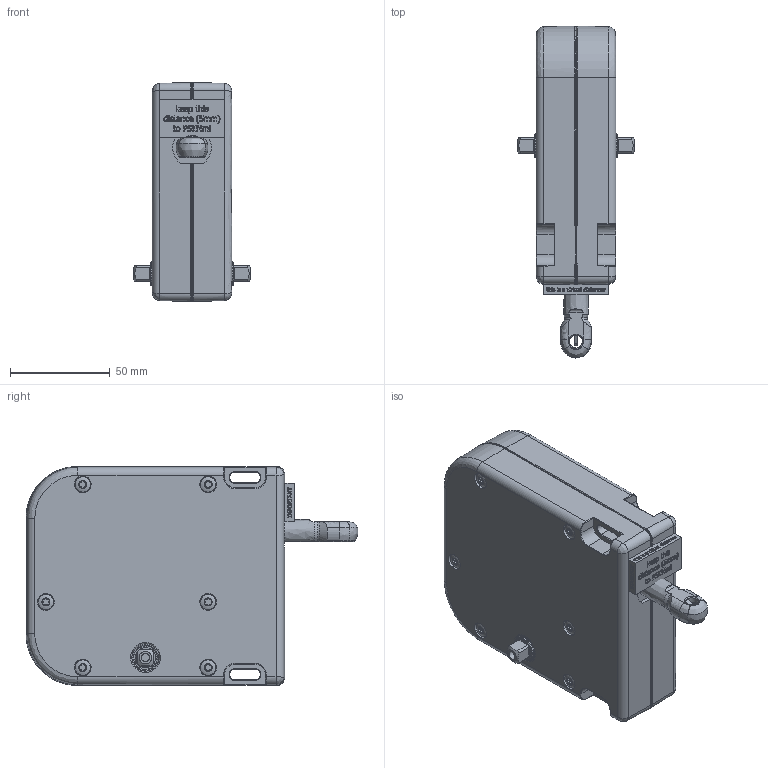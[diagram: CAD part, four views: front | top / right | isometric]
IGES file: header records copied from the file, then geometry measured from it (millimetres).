
Global section: file name: 2028817_B_PSEN ml DHM down r x.1; native system: Autodesk Inventor 2022; preprocessor: unknown; author: jebe; date: 20220315.122004; units: millimetre
Bounding box: 58.3 x 166.75 x 109.99 mm (x, y, z)
Volume: 548517.2 mm3; surface area: 53562.9 mm2
Topology: 2 solids, 2 shells, 2120 faces, 5694 edges, 3724 vertices
Faces by surface type: bspline 2120
